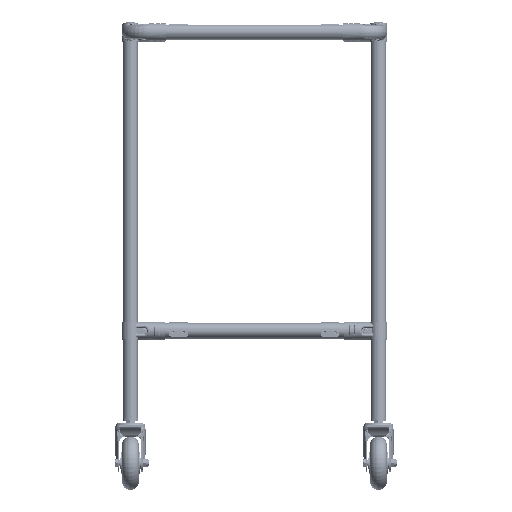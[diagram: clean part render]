
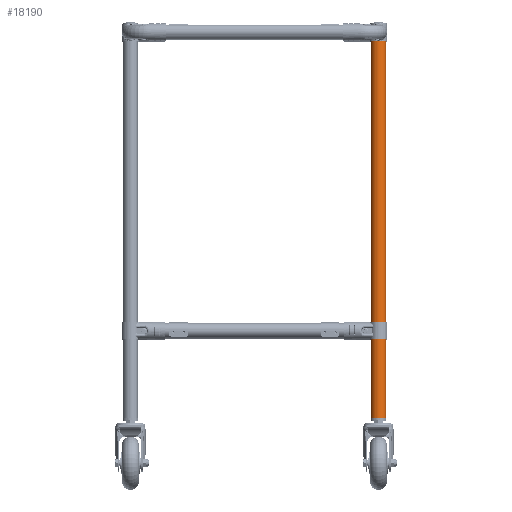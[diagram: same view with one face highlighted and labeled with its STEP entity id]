
A CAD part, top view. The second image highlights one B-rep face of the part: STEP entity #18190.
In plain terms, the highlighted cylindrical face has radius 14 mm (diameter 28 mm), a partial arc.
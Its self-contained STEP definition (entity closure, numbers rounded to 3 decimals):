
#4530 = EDGE_CURVE ( 'NONE', #48311, #12400, #63297, .T. ) ;
#5185 = CARTESIAN_POINT ( 'NONE',  ( -14., 0., 375. ) ) ;
#7062 = CIRCLE ( 'NONE', #27374, 14. ) ;
#8175 = DIRECTION ( 'NONE',  ( 0., 0., -1. ) ) ;
#12400 = VERTEX_POINT ( 'NONE', #45676 ) ;
#18190 = ADVANCED_FACE ( 'NONE', ( #66756 ), #34014, .T. ) ;
#18212 = VERTEX_POINT ( 'NONE', #75729 ) ;
#21267 = CARTESIAN_POINT ( 'NONE',  ( -14., 0., 375. ) ) ;
#26094 = DIRECTION ( 'NONE',  ( 0., 0., -1. ) ) ;
#27374 = AXIS2_PLACEMENT_3D ( 'NONE', #44990, #54989, #102526 ) ;
#34014 = CYLINDRICAL_SURFACE ( 'NONE', #96649, 14. ) ;
#40346 = ORIENTED_EDGE ( 'NONE', *, *, #4530, .T. ) ;
#40734 = ORIENTED_EDGE ( 'NONE', *, *, #76508, .F. ) ;
#40842 = LINE ( 'NONE', #71979, #59853 ) ;
#41370 = DIRECTION ( 'NONE',  ( 0., 0., -1. ) ) ;
#44637 = VERTEX_POINT ( 'NONE', #21267 ) ;
#44990 = CARTESIAN_POINT ( 'NONE',  ( 0., 0., 375. ) ) ;
#45676 = CARTESIAN_POINT ( 'NONE',  ( 14., 0., -375. ) ) ;
#48311 = VERTEX_POINT ( 'NONE', #56841 ) ;
#51606 = EDGE_CURVE ( 'NONE', #18212, #12400, #40842, .T. ) ;
#54989 = DIRECTION ( 'NONE',  ( 0., 0., 1. ) ) ;
#56841 = CARTESIAN_POINT ( 'NONE',  ( -14., 0., -375. ) ) ;
#57808 = DIRECTION ( 'NONE',  ( 1., 0., 0. ) ) ;
#59853 = VECTOR ( 'NONE', #41370, 1000. ) ;
#63297 = CIRCLE ( 'NONE', #98758, 14. ) ;
#63674 = LINE ( 'NONE', #5185, #70082 ) ;
#66400 = EDGE_LOOP ( 'NONE', ( #99104, #40734, #67104, #40346 ) ) ;
#66756 = FACE_OUTER_BOUND ( 'NONE', #66400, .T. ) ;
#67104 = ORIENTED_EDGE ( 'NONE', *, *, #83165, .T. ) ;
#70082 = VECTOR ( 'NONE', #8175, 1000. ) ;
#71979 = CARTESIAN_POINT ( 'NONE',  ( 14., 0., 375. ) ) ;
#74142 = CARTESIAN_POINT ( 'NONE',  ( 0., 0., 375. ) ) ;
#75729 = CARTESIAN_POINT ( 'NONE',  ( 14., 0., 375. ) ) ;
#76508 = EDGE_CURVE ( 'NONE', #44637, #18212, #7062, .T. ) ;
#83165 = EDGE_CURVE ( 'NONE', #44637, #48311, #63674, .T. ) ;
#83180 = CARTESIAN_POINT ( 'NONE',  ( 0., 0., -375. ) ) ;
#91567 = DIRECTION ( 'NONE',  ( -1., 0., 0. ) ) ;
#96649 = AXIS2_PLACEMENT_3D ( 'NONE', #74142, #26094, #91567 ) ;
#98758 = AXIS2_PLACEMENT_3D ( 'NONE', #83180, #99528, #57808 ) ;
#99104 = ORIENTED_EDGE ( 'NONE', *, *, #51606, .F. ) ;
#99528 = DIRECTION ( 'NONE',  ( 0., 0., 1. ) ) ;
#102526 = DIRECTION ( 'NONE',  ( 1., 0., 0. ) ) ;
